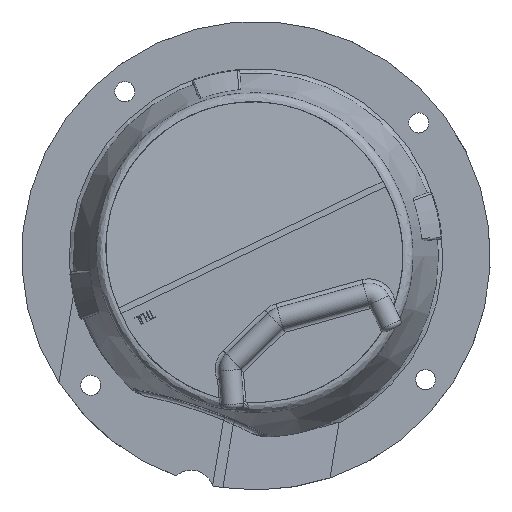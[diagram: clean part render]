
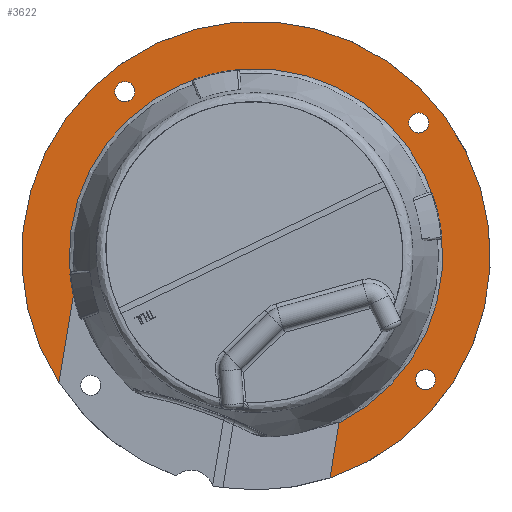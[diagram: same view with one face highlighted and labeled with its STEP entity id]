
A CAD part, top view. The second image highlights one B-rep face of the part: STEP entity #3622.
In plain terms, the highlighted planar face has unit normal (0, 0, 1).
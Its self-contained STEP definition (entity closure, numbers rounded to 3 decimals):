
#213=LINE('',#7885,#406);
#215=LINE('',#7889,#408);
#406=VECTOR('',#4406,1000.);
#408=VECTOR('',#4410,1000.);
#568=PLANE('',#3917);
#646=CIRCLE('',#3862,4.5);
#662=CIRCLE('',#3893,105.);
#670=CIRCLE('',#3916,83.69);
#671=CIRCLE('',#3918,4.5);
#672=CIRCLE('',#3919,4.5);
#1071=ORIENTED_EDGE('',*,*,#2176,.T.);
#1072=ORIENTED_EDGE('',*,*,#2177,.T.);
#1073=ORIENTED_EDGE('',*,*,#1996,.T.);
#1074=ORIENTED_EDGE('',*,*,#2165,.F.);
#1075=ORIENTED_EDGE('',*,*,#2175,.T.);
#1076=ORIENTED_EDGE('',*,*,#2167,.T.);
#1077=ORIENTED_EDGE('',*,*,#2124,.F.);
#1996=EDGE_CURVE('',#2563,#2563,#646,.F.);
#2124=EDGE_CURVE('',#2672,#2673,#662,.T.);
#2165=EDGE_CURVE('',#2710,#2672,#213,.T.);
#2167=EDGE_CURVE('',#2712,#2673,#215,.T.);
#2175=EDGE_CURVE('',#2710,#2712,#670,.T.);
#2176=EDGE_CURVE('',#2718,#2718,#671,.F.);
#2177=EDGE_CURVE('',#2719,#2719,#672,.F.);
#2563=VERTEX_POINT('',#5285);
#2672=VERTEX_POINT('',#7664);
#2673=VERTEX_POINT('',#7666);
#2710=VERTEX_POINT('',#7884);
#2712=VERTEX_POINT('',#7890);
#2718=VERTEX_POINT('',#7951);
#2719=VERTEX_POINT('',#7953);
#3123=EDGE_LOOP('',(#1071));
#3124=EDGE_LOOP('',(#1072));
#3125=EDGE_LOOP('',(#1073));
#3126=EDGE_LOOP('',(#1074,#1075,#1076,#1077));
#3366=FACE_BOUND('',#3123,.T.);
#3367=FACE_BOUND('',#3124,.T.);
#3368=FACE_BOUND('',#3125,.T.);
#3369=FACE_BOUND('',#3126,.T.);
#3622=ADVANCED_FACE('',(#3366,#3367,#3368,#3369),#568,.F.);
#3862=AXIS2_PLACEMENT_3D('',#5284,#4252,#4253);
#3893=AXIS2_PLACEMENT_3D('',#7665,#4364,#4365);
#3916=AXIS2_PLACEMENT_3D('',#7948,#4421,#4422);
#3917=AXIS2_PLACEMENT_3D('',#7949,#4423,#4424);
#3918=AXIS2_PLACEMENT_3D('',#7950,#4425,#4426);
#3919=AXIS2_PLACEMENT_3D('',#7952,#4427,#4428);
#4252=DIRECTION('',(0.,0.,1.));
#4253=DIRECTION('',(1.,0.,0.));
#4364=DIRECTION('',(0.,0.,-1.));
#4365=DIRECTION('',(-1.,0.,0.));
#4406=DIRECTION('',(-0.163,-0.987,0.));
#4410=DIRECTION('',(-0.163,-0.987,0.));
#4421=DIRECTION('',(0.,0.,-1.));
#4422=DIRECTION('',(-1.,0.,0.));
#4423=DIRECTION('',(0.,0.,-1.));
#4424=DIRECTION('',(1.,0.,0.));
#4425=DIRECTION('',(0.,0.,1.));
#4426=DIRECTION('',(1.,0.,0.));
#4427=DIRECTION('',(0.,0.,1.));
#4428=DIRECTION('',(1.,0.,0.));
#5284=CARTESIAN_POINT('',(-58.784,73.488,-98.5));
#5285=CARTESIAN_POINT('',(-54.284,73.488,-98.5));
#7664=CARTESIAN_POINT('',(-88.255,-56.887,-98.5));
#7665=CARTESIAN_POINT('',(0.,0.,-98.5));
#7666=CARTESIAN_POINT('',(33.187,-99.617,-98.5));
#7884=CARTESIAN_POINT('',(-81.786,-17.75,-98.5));
#7885=CARTESIAN_POINT('',(-44.054,210.538,-98.5));
#7889=CARTESIAN_POINT('',(81.032,189.864,-98.5));
#7890=CARTESIAN_POINT('',(37.266,-74.935,-98.5));
#7948=CARTESIAN_POINT('',(0.,0.,-98.5));
#7949=CARTESIAN_POINT('',(-105.,0.,-98.5));
#7950=CARTESIAN_POINT('',(75.975,-55.532,-98.5));
#7951=CARTESIAN_POINT('',(80.475,-55.532,-98.5));
#7952=CARTESIAN_POINT('',(72.968,59.428,-98.5));
#7953=CARTESIAN_POINT('',(77.468,59.428,-98.5));
